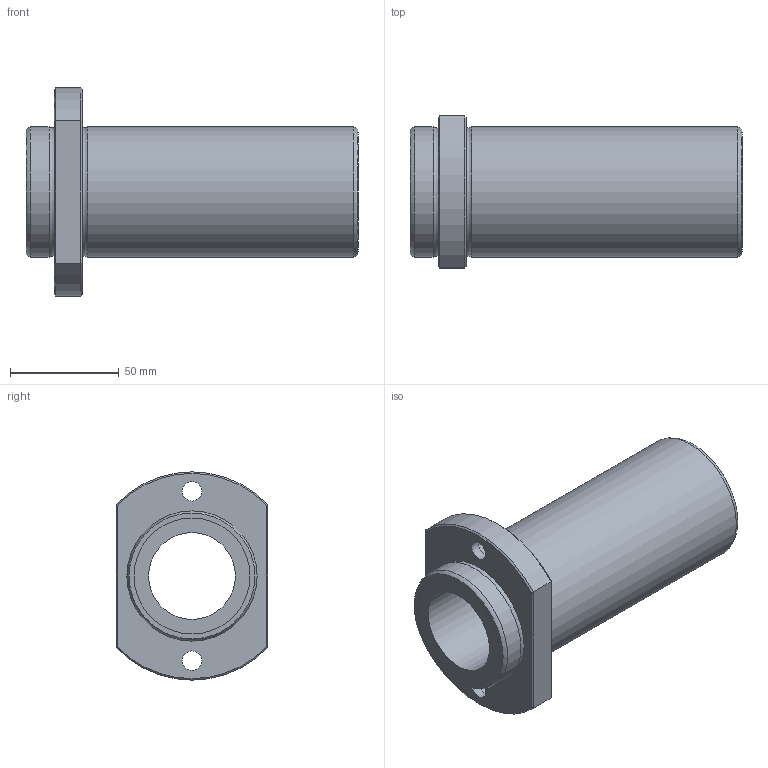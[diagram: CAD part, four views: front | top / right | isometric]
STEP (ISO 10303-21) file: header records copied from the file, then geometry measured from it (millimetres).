
FILE_DESCRIPTION((''),'2;1');
FILE_NAME('D:\製品 (図面)\カタログ用3D\リニアベアリング関連\STEP形式\LFDTB\LFDTB40.stp','2010-06-03T09:54:18',('Tsuchiya'),(''),'Autodesk Inventor 10','Autodesk Inventor 10','');
FILE_SCHEMA(('AUTOMOTIVE_DESIGN { 1 0 10303 214 1 1 1 1 }'));
Length unit declared in the file: millimetre
Products named in the file (1): LFDTB40
Bounding box: 153 x 70 x 96 mm (x, y, z)
Volume: 278204.8 mm3; surface area: 59377.5 mm2
Topology: 1 solids, 1 shells, 33 faces, 63 edges, 38 vertices
Faces by surface type: plane 12, bspline 8, cylinder 7, cone 4, torus 2
Full cylindrical faces by diameter (mm): 40 x1, 53.4 x2, 60 x2
Entity records: 977 total; most frequent: CARTESIAN_POINT 344, DIRECTION 124, ORIENTED_EDGE 100, EDGE_LOOP 58, AXIS2_PLACEMENT_3D 56, EDGE_CURVE 50, VERTEX_POINT 38, FACE_OUTER_BOUND 33
